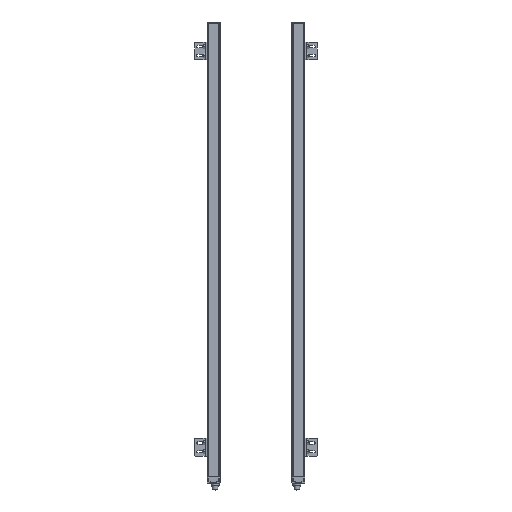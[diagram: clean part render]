
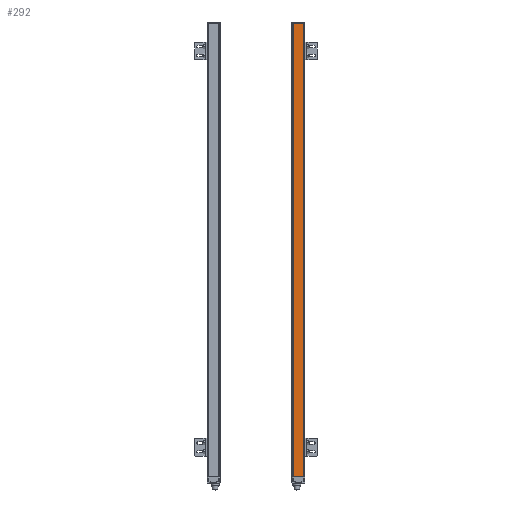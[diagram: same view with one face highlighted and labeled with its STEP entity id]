
A CAD part, top view. The second image highlights one B-rep face of the part: STEP entity #292.
In plain terms, the highlighted planar face has unit normal (0, 0, 1).
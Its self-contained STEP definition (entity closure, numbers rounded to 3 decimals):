
#292 = ADVANCED_FACE( '', ( #710 ), #711, .F. );
#710 = FACE_OUTER_BOUND( '', #1428, .T. );
#711 = PLANE( '', #1429 );
#1428 = EDGE_LOOP( '', ( #2730, #2731, #2732, #2733 ) );
#1429 = AXIS2_PLACEMENT_3D( '', #2734, #2735, #2736 );
#2730 = ORIENTED_EDGE( '', *, *, #4987, .T. );
#2731 = ORIENTED_EDGE( '', *, *, #4903, .T. );
#2732 = ORIENTED_EDGE( '', *, *, #4986, .F. );
#2733 = ORIENTED_EDGE( '', *, *, #4768, .F. );
#2734 = CARTESIAN_POINT( '', ( 3.66, 1037.7, 14.01 ) );
#2735 = DIRECTION( '', ( 0., 0., -1. ) );
#2736 = DIRECTION( '', ( -1., 0., 0. ) );
#4768 = EDGE_CURVE( '', #5721, #5723, #5724, .T. );
#4903 = EDGE_CURVE( '', #5977, #5975, #5978, .T. );
#4986 = EDGE_CURVE( '', #5723, #5975, #6105, .T. );
#4987 = EDGE_CURVE( '', #5721, #5977, #6106, .T. );
#5721 = VERTEX_POINT( '', #7298 );
#5723 = VERTEX_POINT( '', #7300 );
#5724 = LINE( '', #7301, #7302 );
#5975 = VERTEX_POINT( '', #7626 );
#5977 = VERTEX_POINT( '', #7628 );
#5978 = LINE( '', #7629, #7630 );
#6105 = LINE( '', #7815, #7816 );
#6106 = LINE( '', #7817, #7818 );
#7298 = CARTESIAN_POINT( '', ( 3.66, 1034.7, 14.01 ) );
#7300 = CARTESIAN_POINT( '', ( 27.672, 1034.7, 14.01 ) );
#7301 = CARTESIAN_POINT( '', ( 3.66, 1034.7, 14.01 ) );
#7302 = VECTOR( '', #9161, 1000. );
#7626 = CARTESIAN_POINT( '', ( 27.672, 14., 14.01 ) );
#7628 = CARTESIAN_POINT( '', ( 3.66, 14., 14.01 ) );
#7629 = CARTESIAN_POINT( '', ( 3.66, 14., 14.01 ) );
#7630 = VECTOR( '', #9418, 1000. );
#7815 = CARTESIAN_POINT( '', ( 27.672, 1037.7, 14.01 ) );
#7816 = VECTOR( '', #9549, 1000. );
#7817 = CARTESIAN_POINT( '', ( 3.66, 1037.7, 14.01 ) );
#7818 = VECTOR( '', #9550, 1000. );
#9161 = DIRECTION( '', ( 1., 0., 0. ) );
#9418 = DIRECTION( '', ( 1., 0., 0. ) );
#9549 = DIRECTION( '', ( 0., -1., 0. ) );
#9550 = DIRECTION( '', ( 0., -1., 0. ) );
